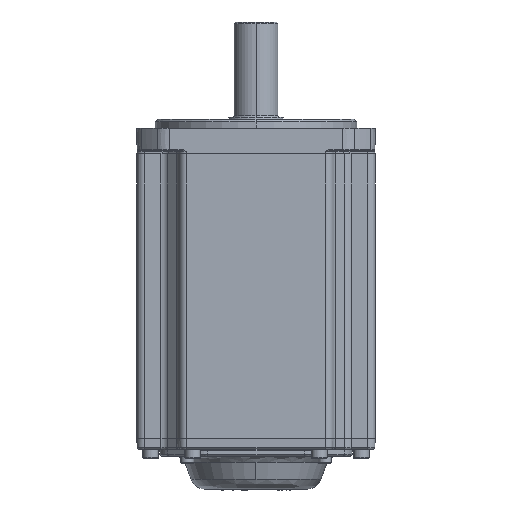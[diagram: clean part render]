
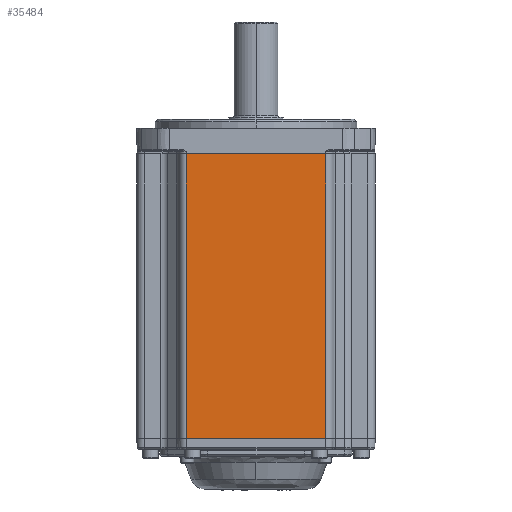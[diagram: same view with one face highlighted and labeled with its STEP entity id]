
A CAD part, front view. The second image highlights one B-rep face of the part: STEP entity #35484.
In plain terms, the highlighted planar face has unit normal (0, -1, 0).
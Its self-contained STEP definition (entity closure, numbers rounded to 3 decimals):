
#1830 = EDGE_CURVE ( 'NONE', #32143, #46257, #60068, .T. ) ;
#2629 = VECTOR ( 'NONE', #53466, 1000. ) ;
#6925 = AXIS2_PLACEMENT_3D ( 'NONE', #29911, #54165, #15193 ) ;
#12233 = DIRECTION ( 'NONE',  ( 1., 0., 0. ) ) ;
#12575 = EDGE_CURVE ( 'NONE', #32143, #49918, #59103, .T. ) ;
#15193 = DIRECTION ( 'NONE',  ( 0., 0., 1. ) ) ;
#17219 = CARTESIAN_POINT ( 'NONE',  ( -38., -65., 47.8 ) ) ;
#17393 = DIRECTION ( 'NONE',  ( 0., 0., -1. ) ) ;
#21775 = CARTESIAN_POINT ( 'NONE',  ( 38., -65., 47.8 ) ) ;
#22578 = EDGE_LOOP ( 'NONE', ( #61935, #57411, #62063, #40468 ) ) ;
#24637 = PLANE ( 'NONE',  #6925 ) ;
#25886 = DIRECTION ( 'NONE',  ( 0., 0., 1. ) ) ;
#26460 = EDGE_CURVE ( 'NONE', #46257, #35114, #59140, .T. ) ;
#28397 = VECTOR ( 'NONE', #17393, 1000. ) ;
#29719 = VECTOR ( 'NONE', #12233, 1000. ) ;
#29911 = CARTESIAN_POINT ( 'NONE',  ( -42., -65., 892.8 ) ) ;
#32094 = CARTESIAN_POINT ( 'NONE',  ( -38., -65., 892.8 ) ) ;
#32143 = VERTEX_POINT ( 'NONE', #17219 ) ;
#34026 = CARTESIAN_POINT ( 'NONE',  ( -42., -65., -107.2 ) ) ;
#35114 = VERTEX_POINT ( 'NONE', #55256 ) ;
#35370 = LINE ( 'NONE', #60379, #52820 ) ;
#35484 = ADVANCED_FACE ( 'NONE', ( #55219 ), #24637, .F. ) ;
#37656 = EDGE_CURVE ( 'NONE', #35114, #49918, #35370, .T. ) ;
#40468 = ORIENTED_EDGE ( 'NONE', *, *, #37656, .T. ) ;
#41378 = CARTESIAN_POINT ( 'NONE',  ( -42., -65., 47.8 ) ) ;
#46257 = VERTEX_POINT ( 'NONE', #54140 ) ;
#49918 = VERTEX_POINT ( 'NONE', #21775 ) ;
#52820 = VECTOR ( 'NONE', #25886, 1000. ) ;
#53466 = DIRECTION ( 'NONE',  ( 1., 0., 0. ) ) ;
#54140 = CARTESIAN_POINT ( 'NONE',  ( -38., -65., -107.2 ) ) ;
#54165 = DIRECTION ( 'NONE',  ( 0., 1., 0. ) ) ;
#55219 = FACE_OUTER_BOUND ( 'NONE', #22578, .T. ) ;
#55256 = CARTESIAN_POINT ( 'NONE',  ( 38., -65., -107.2 ) ) ;
#57411 = ORIENTED_EDGE ( 'NONE', *, *, #1830, .T. ) ;
#59103 = LINE ( 'NONE', #41378, #29719 ) ;
#59140 = LINE ( 'NONE', #34026, #2629 ) ;
#60068 = LINE ( 'NONE', #32094, #28397 ) ;
#60379 = CARTESIAN_POINT ( 'NONE',  ( 38., -65., 892.8 ) ) ;
#61935 = ORIENTED_EDGE ( 'NONE', *, *, #12575, .F. ) ;
#62063 = ORIENTED_EDGE ( 'NONE', *, *, #26460, .T. ) ;
